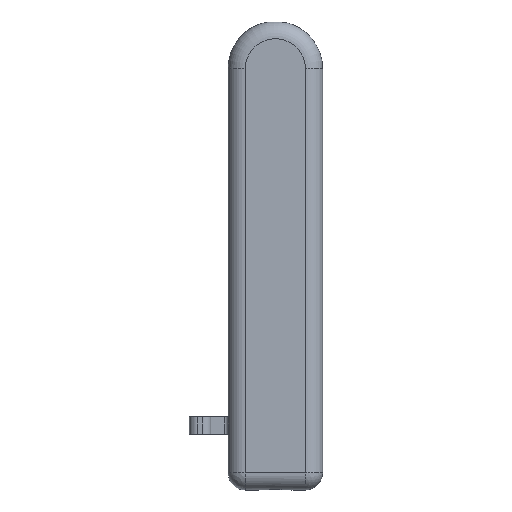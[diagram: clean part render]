
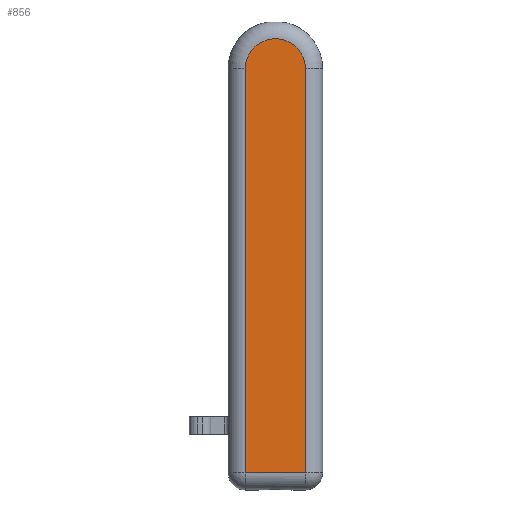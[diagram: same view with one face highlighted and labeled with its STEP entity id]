
A CAD part, front view. The second image highlights one B-rep face of the part: STEP entity #856.
In plain terms, the highlighted planar face has unit normal (0, -1, 0).
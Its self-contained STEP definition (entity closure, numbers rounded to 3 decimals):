
#38=PLANE('',#967);
#87=FACE_OUTER_BOUND('',#134,.T.);
#134=EDGE_LOOP('',(#783,#784,#785,#786));
#197=LINE('',#1553,#264);
#201=LINE('',#1572,#268);
#202=LINE('',#1577,#269);
#264=VECTOR('',#1190,94.);
#268=VECTOR('',#1216,94.);
#269=VECTOR('',#1225,14.);
#319=CIRCLE('',#964,7.);
#404=VERTEX_POINT('',#1546);
#405=VERTEX_POINT('',#1551);
#408=VERTEX_POINT('',#1563);
#409=VERTEX_POINT('',#1571);
#524=EDGE_CURVE('',#405,#404,#197,.T.);
#533=EDGE_CURVE('',#408,#409,#201,.T.);
#535=EDGE_CURVE('',#409,#405,#319,.T.);
#536=EDGE_CURVE('',#404,#408,#202,.T.);
#783=ORIENTED_EDGE('',*,*,#533,.F.);
#784=ORIENTED_EDGE('',*,*,#536,.F.);
#785=ORIENTED_EDGE('',*,*,#524,.F.);
#786=ORIENTED_EDGE('',*,*,#535,.F.);
#856=ADVANCED_FACE('',(#87),#38,.F.);
#964=AXIS2_PLACEMENT_3D('',#1575,#1221,#1222);
#967=AXIS2_PLACEMENT_3D('',#1579,#1228,#1229);
#1190=DIRECTION('',(0.,0.,-1.));
#1216=DIRECTION('',(0.,0.,1.));
#1221=DIRECTION('center_axis',(0.,1.,0.));
#1222=DIRECTION('ref_axis',(0.,0.,1.));
#1225=DIRECTION('',(-1.,0.,0.));
#1228=DIRECTION('center_axis',(0.,1.,0.));
#1229=DIRECTION('ref_axis',(0.,0.,1.));
#1546=CARTESIAN_POINT('',(7.,-11.,5.));
#1551=CARTESIAN_POINT('',(7.,-11.,99.));
#1553=CARTESIAN_POINT('',(7.,-11.,99.));
#1563=CARTESIAN_POINT('',(-7.,-11.,5.));
#1571=CARTESIAN_POINT('',(-7.,-11.,99.));
#1572=CARTESIAN_POINT('',(-7.,-11.,5.));
#1575=CARTESIAN_POINT('Origin',(0.,-11.,99.));
#1577=CARTESIAN_POINT('',(7.,-11.,5.));
#1579=CARTESIAN_POINT('Origin',(0.,-11.,99.));
